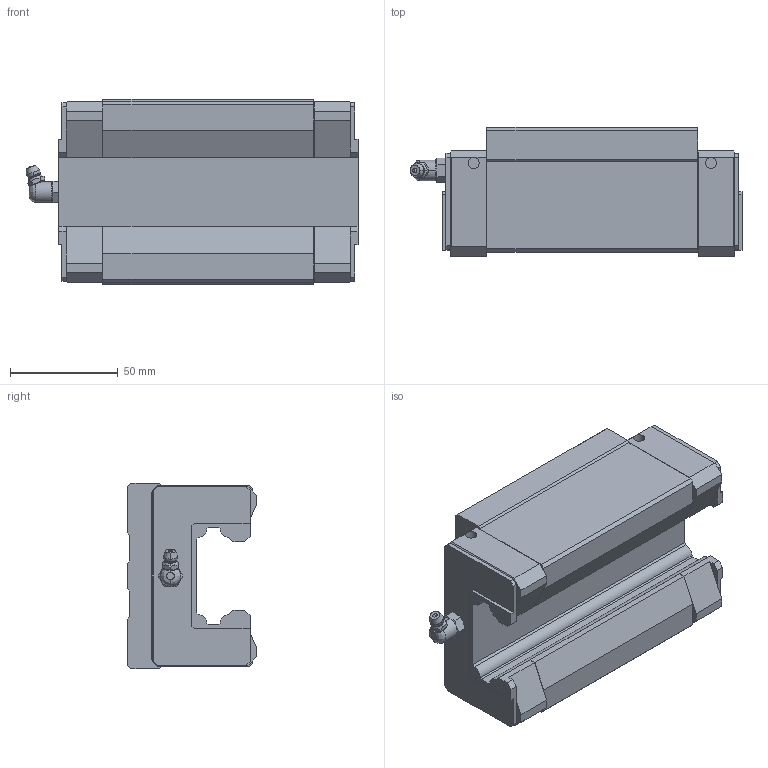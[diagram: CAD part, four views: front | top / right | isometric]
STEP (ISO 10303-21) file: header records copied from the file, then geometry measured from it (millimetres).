
FILE_DESCRIPTION (( 'STEP AP203' ), '1' );
FILE_NAME ('HSR45R_SW2020.STEP', '2020-06-02T18:47:41', ( '' ), ( '' ), 'SwSTEP 2.0', 'SolidWorks 2020', '' );
FILE_SCHEMA (( 'CONFIG_CONTROL_DESIGN' ));
Length unit declared in the file: millimetre
Products named in the file (1): HSR45R_SW2020
Bounding box: 154.2 x 60 x 86 mm (x, y, z)
Volume: 482787 mm3; surface area: 62738.4 mm2
Topology: 2 solids, 2 shells, 233 faces, 628 edges, 394 vertices
Faces by surface type: plane 159, cone 40, cylinder 22, torus 6, sphere 4, bspline 2
Entity records: 7886 total; most frequent: CARTESIAN_POINT 2047, ORIENTED_EDGE 1228, DIRECTION 1152, EDGE_CURVE 614, VECTOR 468, LINE 468, VERTEX_POINT 394, AXIS2_PLACEMENT_3D 342
